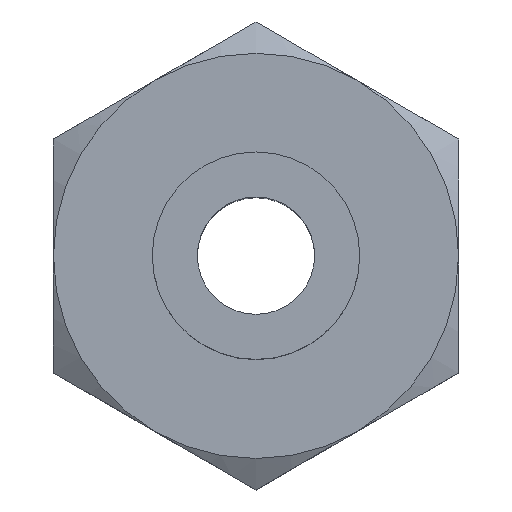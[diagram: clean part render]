
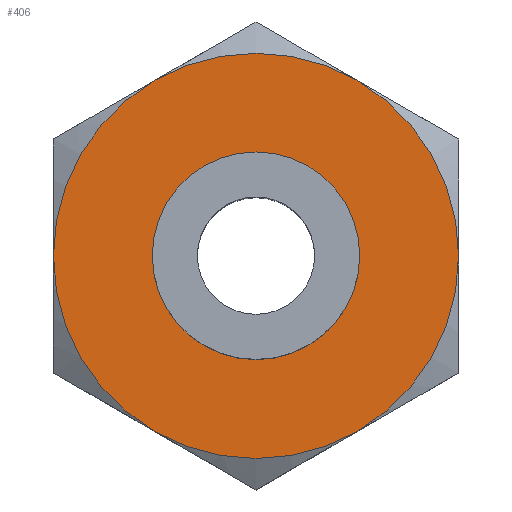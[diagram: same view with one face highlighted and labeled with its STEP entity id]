
A CAD part, top view. The second image highlights one B-rep face of the part: STEP entity #406.
In plain terms, the highlighted planar face has unit normal (0, 0, 1).
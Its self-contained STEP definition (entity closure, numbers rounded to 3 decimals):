
#15=FACE_BOUND('',#106,.T.);
#19=PLANE('',#470);
#79=FACE_OUTER_BOUND('',#105,.T.);
#105=EDGE_LOOP('',(#305,#306,#307,#308,#309,#310));
#106=EDGE_LOOP('',(#311,#312));
#149=CIRCLE('',#459,9.5);
#150=CIRCLE('',#461,9.5);
#151=CIRCLE('',#463,9.5);
#152=CIRCLE('',#465,9.5);
#153=CIRCLE('',#467,9.5);
#154=CIRCLE('',#469,9.5);
#155=CIRCLE('',#471,4.864);
#156=CIRCLE('',#472,4.864);
#179=VERTEX_POINT('',#673);
#180=VERTEX_POINT('',#677);
#181=VERTEX_POINT('',#683);
#183=VERTEX_POINT('',#693);
#186=VERTEX_POINT('',#704);
#187=VERTEX_POINT('',#713);
#190=VERTEX_POINT('',#732);
#191=VERTEX_POINT('',#733);
#223=EDGE_CURVE('',#180,#179,#149,.T.);
#225=EDGE_CURVE('',#181,#180,#150,.T.);
#228=EDGE_CURVE('',#183,#181,#151,.T.);
#232=EDGE_CURVE('',#179,#186,#152,.T.);
#234=EDGE_CURVE('',#187,#183,#153,.T.);
#238=EDGE_CURVE('',#186,#187,#154,.T.);
#239=EDGE_CURVE('',#190,#191,#155,.T.);
#240=EDGE_CURVE('',#191,#190,#156,.T.);
#305=ORIENTED_EDGE('',*,*,#232,.F.);
#306=ORIENTED_EDGE('',*,*,#223,.F.);
#307=ORIENTED_EDGE('',*,*,#225,.F.);
#308=ORIENTED_EDGE('',*,*,#228,.F.);
#309=ORIENTED_EDGE('',*,*,#234,.F.);
#310=ORIENTED_EDGE('',*,*,#238,.F.);
#311=ORIENTED_EDGE('',*,*,#239,.T.);
#312=ORIENTED_EDGE('',*,*,#240,.T.);
#406=ADVANCED_FACE('',(#79,#15),#19,.F.);
#459=AXIS2_PLACEMENT_3D('',#681,#534,#535);
#461=AXIS2_PLACEMENT_3D('',#688,#538,#539);
#463=AXIS2_PLACEMENT_3D('',#698,#542,#543);
#465=AXIS2_PLACEMENT_3D('',#711,#546,#547);
#467=AXIS2_PLACEMENT_3D('',#718,#550,#551);
#469=AXIS2_PLACEMENT_3D('',#730,#554,#555);
#470=AXIS2_PLACEMENT_3D('',#731,#556,#557);
#471=AXIS2_PLACEMENT_3D('',#734,#558,#559);
#472=AXIS2_PLACEMENT_3D('',#735,#560,#561);
#534=DIRECTION('center_axis',(0.,0.,-1.));
#535=DIRECTION('ref_axis',(1.,0.,0.));
#538=DIRECTION('center_axis',(0.,0.,-1.));
#539=DIRECTION('ref_axis',(1.,0.,0.));
#542=DIRECTION('center_axis',(0.,0.,-1.));
#543=DIRECTION('ref_axis',(1.,0.,0.));
#546=DIRECTION('center_axis',(0.,0.,-1.));
#547=DIRECTION('ref_axis',(1.,0.,0.));
#550=DIRECTION('center_axis',(0.,0.,-1.));
#551=DIRECTION('ref_axis',(1.,0.,0.));
#554=DIRECTION('center_axis',(0.,0.,-1.));
#555=DIRECTION('ref_axis',(1.,0.,0.));
#556=DIRECTION('center_axis',(0.,0.,-1.));
#557=DIRECTION('ref_axis',(-1.,0.,0.));
#558=DIRECTION('center_axis',(0.,0.,-1.));
#559=DIRECTION('ref_axis',(1.,0.,0.));
#560=DIRECTION('center_axis',(0.,0.,-1.));
#561=DIRECTION('ref_axis',(1.,0.,0.));
#673=CARTESIAN_POINT('',(4.75,-8.227,14.));
#677=CARTESIAN_POINT('',(9.5,0.,14.));
#681=CARTESIAN_POINT('Origin',(0.,0.,14.));
#683=CARTESIAN_POINT('',(4.75,8.227,14.));
#688=CARTESIAN_POINT('Origin',(0.,0.,14.));
#693=CARTESIAN_POINT('',(-4.75,8.227,14.));
#698=CARTESIAN_POINT('Origin',(0.,0.,14.));
#704=CARTESIAN_POINT('',(-4.75,-8.227,14.));
#711=CARTESIAN_POINT('Origin',(0.,0.,14.));
#713=CARTESIAN_POINT('',(-9.5,0.,14.));
#718=CARTESIAN_POINT('Origin',(0.,0.,14.));
#730=CARTESIAN_POINT('Origin',(0.,0.,14.));
#731=CARTESIAN_POINT('Origin',(0.,-4.864,14.));
#732=CARTESIAN_POINT('',(0.,-4.864,14.));
#733=CARTESIAN_POINT('',(0.,4.864,14.));
#734=CARTESIAN_POINT('Origin',(0.,0.,14.));
#735=CARTESIAN_POINT('Origin',(0.,0.,14.));
